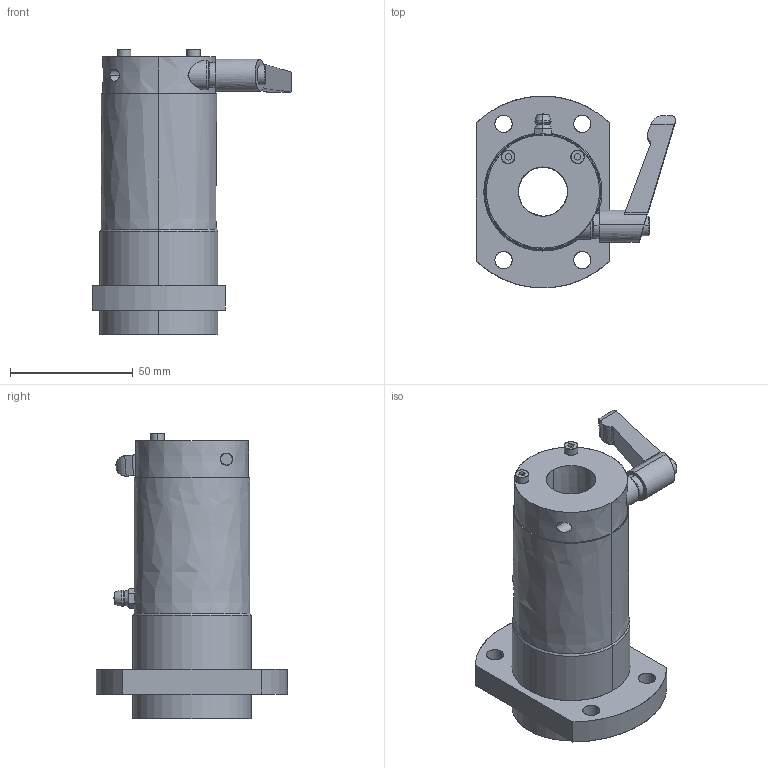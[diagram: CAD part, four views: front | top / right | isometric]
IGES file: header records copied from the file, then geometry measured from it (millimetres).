
Start section: SolidWorks IGES file using analytic representation for surfaces
Global section: file name: C:\Users\yamad\Desktop\IGES\LFWB20-C.IGS; native system: SolidWorks 2019; preprocessor: SolidWorks 2019; author: yamad; date: 230626.171828; units: millimetre
Bounding box: 80.9 x 78 x 116 mm (x, y, z)
Surface area: 44523.6 mm2 (no closed solid volume)
Topology: 0 solids, 0 shells, 234 faces, 5507 edges, 5505 vertices
Faces by surface type: bspline 123, revolution 111
